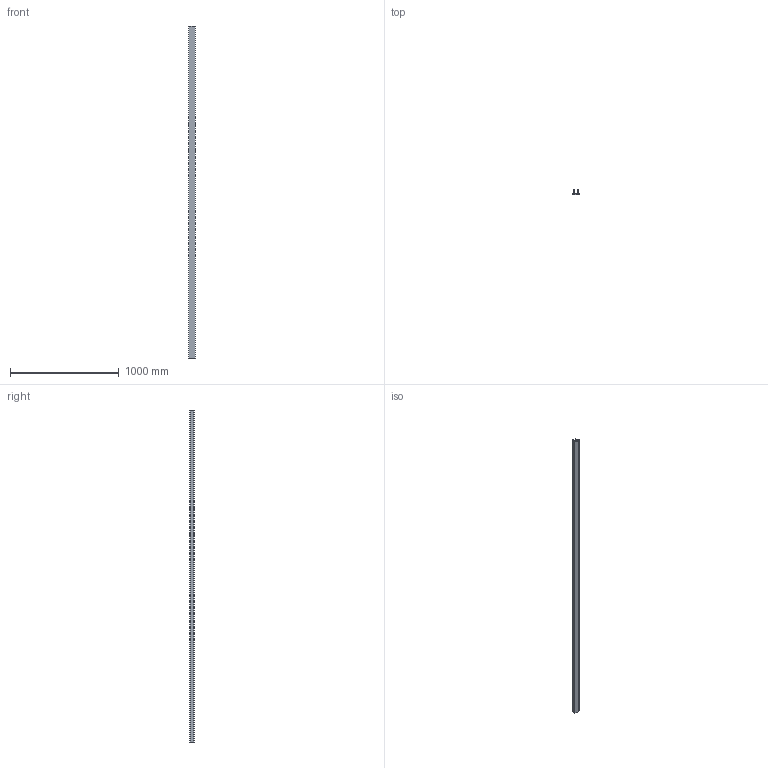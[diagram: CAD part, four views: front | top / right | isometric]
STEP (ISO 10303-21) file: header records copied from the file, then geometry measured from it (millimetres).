
FILE_DESCRIPTION(('TurboCAD Mac Pro'),'Build 980');
FILE_NAME('F20E-2300.stp',' ',(''),(''),'ACIS Interop','IMSI','TurboCAD Mac Pro BY IMSI, INCORPORATED');
FILE_SCHEMA(('automotive_design'));
Length unit declared in the file: inch
Products named in the file (3): 1; 2; 3
Bounding box: 60.33 x 44.45 x 3048 mm (x, y, z)
Volume: 1956168 mm3; surface area: 1187041.3 mm2
Topology: 2 solids, 2 shells, 38 faces, 102 edges, 68 vertices
Faces by surface type: plane 20, bspline 18
Entity records: 2079 total; most frequent: CARTESIAN_POINT 541, ORIENTED_EDGE 204, DIRECTION 144, EDGE_CURVE 102, LINE 82, VECTOR 82, STYLED_ITEM 72, PRESENTATION_STYLE_ASSIGNMENT 72
